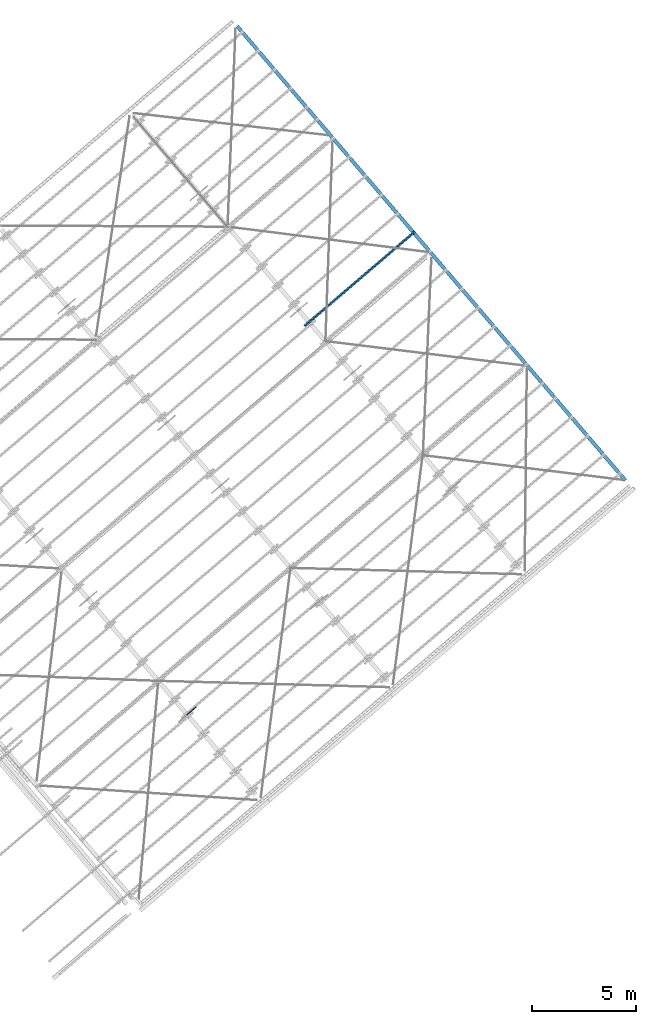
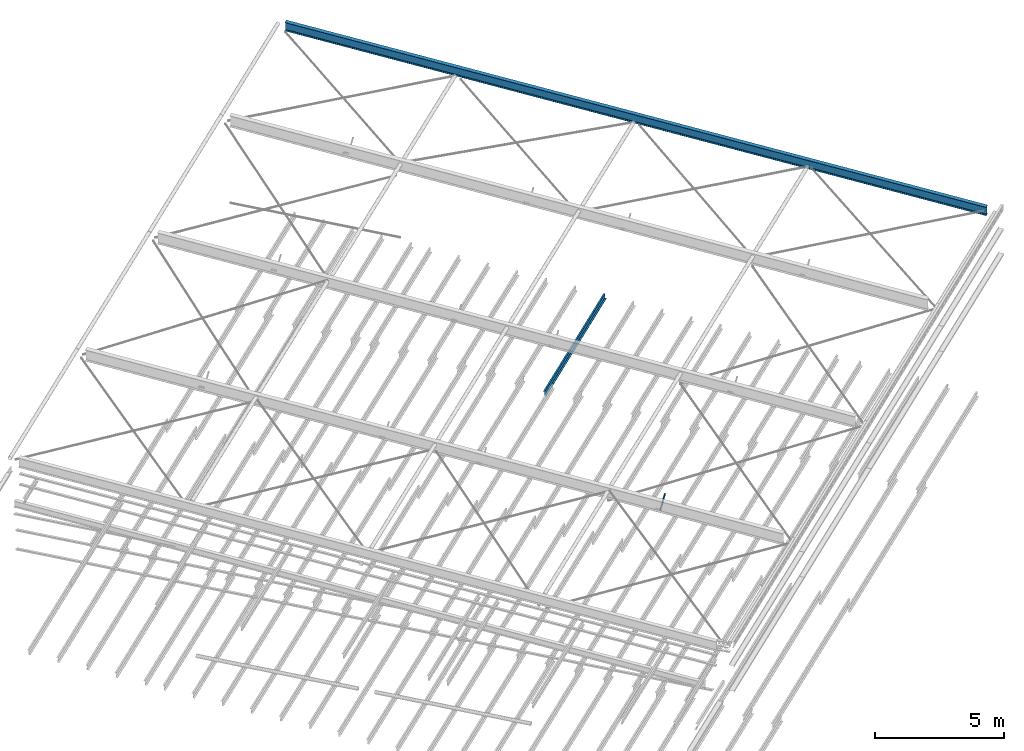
# One storey, part 21 of 25: 2 beams, 1 member, 1 element without a shape of its own.
"""IFC2X3 building model written with IfcOpenShell, lengths in millimetres."""

from ifc_helpers import new_model, entity, si_unit, converted_unit, derived_unit, direction, frame, frame_2d, origin, origin_2d, place, context, subcontext, project, spatial, polyline, circle_curve, parameter, trimmed, segment, composite_curve, i_section, outline, extrude, clip, halfspace, material, type_object, element, aggregate, save


model = new_model("IFC2X3")

# Units and contexts
model_context = context("Model", 3, precision=0.01, world=origin(), true_north=direction((6.123031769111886e-17, 1.0)))
body_context = subcontext(model_context, "Body", "Model", "MODEL_VIEW")
ifc_project = project(units=[si_unit("LENGTHUNIT", "METRE", prefix="MILLI"), si_unit("AREAUNIT", "SQUARE_METRE"), si_unit("VOLUMEUNIT", "CUBIC_METRE"), converted_unit("PLANEANGLEUNIT", "DEGREE", entity("IfcRatioMeasure", 0.017453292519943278), si_unit("PLANEANGLEUNIT", "RADIAN"), dimensions=[0, 0, 0, 0, 0, 0, 0]), si_unit("MASSUNIT", "GRAM", prefix="KILO"), derived_unit("MASSDENSITYUNIT", [(si_unit("MASSUNIT", "GRAM", prefix="KILO"), 1), (si_unit("LENGTHUNIT", "METRE"), -3)]), derived_unit("MOMENTOFINERTIAUNIT", [(si_unit("LENGTHUNIT", "METRE"), 4)]), si_unit("TIMEUNIT", "SECOND"), si_unit("FREQUENCYUNIT", "HERTZ"), si_unit("THERMODYNAMICTEMPERATUREUNIT", "DEGREE_CELSIUS"), derived_unit("THERMALTRANSMITTANCEUNIT", [(si_unit("MASSUNIT", "GRAM", prefix="KILO"), 1), (si_unit("THERMODYNAMICTEMPERATUREUNIT", "KELVIN"), -1), (si_unit("TIMEUNIT", "SECOND"), -3)]), derived_unit("VOLUMETRICFLOWRATEUNIT", [(si_unit("LENGTHUNIT", "METRE"), 3), (si_unit("TIMEUNIT", "SECOND"), -1)]), derived_unit("MASSFLOWRATEUNIT", [(si_unit("MASSUNIT", "GRAM", prefix="KILO"), 1), (si_unit("TIMEUNIT", "SECOND"), -1)]), derived_unit("ROTATIONALFREQUENCYUNIT", [(si_unit("TIMEUNIT", "SECOND"), -1)]), si_unit("ELECTRICCURRENTUNIT", "AMPERE"), si_unit("ELECTRICVOLTAGEUNIT", "VOLT"), si_unit("POWERUNIT", "WATT"), si_unit("FORCEUNIT", "NEWTON", prefix="KILO"), si_unit("ILLUMINANCEUNIT", "LUX"), si_unit("LUMINOUSFLUXUNIT", "LUMEN"), si_unit("LUMINOUSINTENSITYUNIT", "CANDELA"), derived_unit("USERDEFINED", [(si_unit("MASSUNIT", "GRAM", prefix="KILO"), -1), (si_unit("LENGTHUNIT", "METRE"), -2), (si_unit("TIMEUNIT", "SECOND"), 3), (si_unit("LUMINOUSFLUXUNIT", "LUMEN"), 1)]), derived_unit("SOUNDPOWERUNIT", [(si_unit("MASSUNIT", "GRAM", prefix="KILO"), 1), (si_unit("LENGTHUNIT", "METRE"), 2), (si_unit("TIMEUNIT", "SECOND"), -3)]), derived_unit("LINEARVELOCITYUNIT", [(si_unit("LENGTHUNIT", "METRE"), 1), (si_unit("TIMEUNIT", "SECOND"), -1)]), si_unit("PRESSUREUNIT", "PASCAL"), derived_unit("USERDEFINED", [(si_unit("LENGTHUNIT", "METRE"), -2), (si_unit("MASSUNIT", "GRAM", prefix="KILO"), 1), (si_unit("TIMEUNIT", "SECOND"), -2)]), derived_unit("LINEARFORCEUNIT", [(si_unit("MASSUNIT", "GRAM", prefix="KILO"), 1), (si_unit("LENGTHUNIT", "METRE"), 1), (si_unit("TIMEUNIT", "SECOND"), -2), (si_unit("LENGTHUNIT", "METRE"), -1)]), derived_unit("PLANARFORCEUNIT", [(si_unit("MASSUNIT", "GRAM", prefix="KILO"), 1), (si_unit("LENGTHUNIT", "METRE"), 1), (si_unit("TIMEUNIT", "SECOND"), -2), (si_unit("LENGTHUNIT", "METRE"), -2)])], contexts=[model_context])

# Site, building, storey
site_placement = place(None, frame((962.4174930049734, -6014.433753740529, 0.0), z_axis=(0.0, 0.0, 1.0), x_axis=(0.7601792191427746, 0.649713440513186, 0.0)))
site = spatial("IfcSite", under=ifc_project, at=site_placement, Name="Default", CompositionType="ELEMENT")
building_placement = place(site_placement, origin())
building = spatial("IfcBuilding", under=site, at=building_placement, CompositionType="ELEMENT")
storey_placement = place(building_placement, frame((0.0, 0.0, 9200.0)))
storey = spatial("IfcBuildingStorey", under=building, at=storey_placement, Name="TOP OF CEILING", CompositionType="ELEMENT", Elevation=9200.000000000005)

# Beam
beam_type_1 = type_object("IfcBeamType", Name="ADSK_AU_EA-Equal Angles (AS 3679_1):50x50x5EA", PredefinedType="NOTDEFINED")
beam_1_placement = place(storey_placement, frame((162866.05964134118, -20517.92808212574, 2502.2460975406), z_axis=(-0.6018150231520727, 0.0, 0.7986355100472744), x_axis=(-0.7986355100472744, 0.0, -0.6018150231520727)))
element("IfcBeam", 1, at=beam_1_placement, inside=storey, type_object=beam_type_1, Name="ADSK_AU_EA-Equal Angles (AS 3679_1):50x50x5EA", ObjectType="ADSK_AU_EA-Equal Angles (AS 3679_1):50x50x5EA", context=body_context, shape_type="SweptSolid", body=[
    clip(extrude(outline(composite_curve([segment(polyline([(16.88888888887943, -31.11111111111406), (18.888888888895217, -31.111111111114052)]), True, "CONTINUOUS"), segment(polyline([(18.888888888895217, -31.111111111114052), (18.888888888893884, 18.888888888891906)]), True, "CONTINUOUS"), segment(polyline([(18.88888888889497, 18.888888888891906), (-31.111111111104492, 18.88888888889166)]), True, "CONTINUOUS"), segment(polyline([(-31.11111111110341, 18.88888888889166), (-31.111111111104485, 16.888888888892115)]), True, "CONTINUOUS"), segment(trimmed(circle_curve(frame_2d((-28.11111111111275, 16.8888888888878), x_axis=(-1.0, 0.0)), 2.9999999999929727), [parameter(0.0)], [parameter(90.00000000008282)], True, "PARAMETER"), True, "CONTINUOUS"), segment(polyline([(-28.11111111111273, 13.88888888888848), (7.888888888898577, 13.888888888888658)]), True, "CONTINUOUS"), segment(trimmed(circle_curve(frame_2d((7.888888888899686, 7.88888888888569), x_axis=(0.0, 1.0)), 6.00000000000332), [parameter(270.0000000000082)], [parameter(0.0)], True, "PARAMETER"), False, "CONTINUOUS"), segment(polyline([(13.88888888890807, 7.888888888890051), (13.88888888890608, -28.11111111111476)]), True, "CONTINUOUS"), segment(trimmed(circle_curve(frame_2d((16.888888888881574, -28.111111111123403), x_axis=(-1.0, 0.0)), 2.9999999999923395), [parameter(0.0)], [parameter(90.00000000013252)], True, "PARAMETER"), True, "CONTINUOUS")], self_intersect=False)), frame((0.0, -4.9888888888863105, -31.111111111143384), z_axis=(1.0, 0.0, 0.0), x_axis=(0.0, 0.0, -1.0)), (0.0, 0.0, 1.0), 697.6777025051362), halfspace(frame((697.67770250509, 0.0, -50.0), z_axis=(0.7986355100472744, 0.0, 0.6018150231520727), x_axis=(0.0, -1.0, 0.0)), False)),
])

# Assembly, beam
assembly_placement = place(storey_placement, origin())
assembly = element("IfcElementAssembly", 2, at=assembly_placement, inside=storey, Name="Structural Beam System:Structural Beam System 1", ObjectType="Structural Beam System:Structural Beam System 1", AssemblyPlace="NOTDEFINED", PredefinedType="BEAM_GRID")
ifc_material_1 = material(Name="Metal - Light Gauge")
beam_type_2 = type_object("IfcBeamType", Name="ADSK_AU_Light Gauge-Zeds:Z20019", PredefinedType="NOTDEFINED")
beam_2_placement = place(building_placement, frame((185873.56020470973, -9913.849118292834, 3496.7645262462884), z_axis=(0.0, 0.0, 1.0), x_axis=(-1.0, 0.0, 0.0)))
beam_2 = element("IfcBeam", 3, at=beam_2_placement, type_object=beam_type_2, material=ifc_material_1, Name="ADSK_AU_Light Gauge-Zeds:Z20019", ObjectType="ADSK_AU_Light Gauge-Zeds:Z20019", context=body_context, shape_type="SweptSolid", body=[
    extrude(outline(composite_curve([segment(polyline([(99.65000000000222, 1.2799999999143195), (99.6499999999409, -70.42000000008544)]), True, "CONTINUOUS"), segment(trimmed(circle_curve(frame_2d((97.649999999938, -70.42000000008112), x_axis=(0.0, -1.0)), 2.0000000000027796), [parameter(0.0)], [parameter(89.99999999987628)], True, "PARAMETER"), False, "CONTINUOUS"), segment(polyline([(97.64999999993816, -72.42000000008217), (80.04999999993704, -72.42000000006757)]), True, "CONTINUOUS"), segment(polyline([(80.04999999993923, -72.42000000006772), (80.0499999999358, -74.32000000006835)]), True, "CONTINUOUS"), segment(polyline([(80.0499999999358, -74.32000000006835), (97.6499999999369, -74.32000000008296)]), True, "CONTINUOUS"), segment(trimmed(circle_curve(frame_2d((97.64999999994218, -70.42000000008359), x_axis=(1.0, 0.0)), 3.8999999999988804), [parameter(269.99999999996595)], [parameter(0.0)], True, "PARAMETER"), True, "CONTINUOUS"), segment(polyline([(101.54999999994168, -70.4200000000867), (101.550000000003, 1.279999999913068)]), True, "CONTINUOUS"), segment(trimmed(circle_curve(frame_2d((97.65000000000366, 1.2799999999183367), x_axis=(0.0, 1.0)), 3.899999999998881), [parameter(269.99999999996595)], [parameter(0.0)], True, "PARAMETER"), True, "CONTINUOUS"), segment(polyline([(97.65000000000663, 5.1799999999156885), (-97.54999999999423, 5.180000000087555)]), True, "CONTINUOUS"), segment(trimmed(circle_curve(frame_2d((-97.5499999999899, 7.180000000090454), x_axis=(-1.0, 0.0)), 2.0000000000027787), [parameter(0.0)], [parameter(89.99999999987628)], True, "PARAMETER"), False, "CONTINUOUS"), segment(polyline([(-99.5499999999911, 7.1800000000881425), (-99.54999999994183, 64.78000000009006)]), True, "CONTINUOUS"), segment(trimmed(circle_curve(frame_2d((-97.5499999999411, 64.78000000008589), x_axis=(0.0, 1.0)), 2.000000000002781), [parameter(0.0)], [parameter(89.99999999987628)], True, "PARAMETER"), False, "CONTINUOUS"), segment(polyline([(-97.54999999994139, 66.78000000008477), (-80.44999999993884, 66.78000000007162)]), True, "CONTINUOUS"), segment(polyline([(-80.44999999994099, 66.78000000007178), (-80.44999999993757, 68.68000000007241)]), True, "CONTINUOUS"), segment(polyline([(-80.4499999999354, 68.68000000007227), (-97.549999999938, 68.6800000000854)]), True, "CONTINUOUS"), segment(trimmed(circle_curve(frame_2d((-97.54999999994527, 64.78000000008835), x_axis=(-1.0, 0.0)), 3.8999999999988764), [parameter(269.99999999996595)], [parameter(0.0)], True, "PARAMETER"), True, "CONTINUOUS"), segment(polyline([(-101.44999999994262, 64.7800000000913), (-101.44999999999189, 7.180000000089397)]), True, "CONTINUOUS"), segment(trimmed(circle_curve(frame_2d((-97.54999999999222, 7.180000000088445), x_axis=(0.0, -1.0)), 3.8999999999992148), [parameter(269.9999999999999)], [parameter(0.0)], True, "PARAMETER"), True, "CONTINUOUS"), segment(polyline([(-97.54999999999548, 3.2800000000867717), (97.65000000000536, 3.2799999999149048)]), True, "CONTINUOUS"), segment(trimmed(circle_curve(frame_2d((97.65000000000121, 1.2799999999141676), x_axis=(1.0, 0.0)), 2.000000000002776), [parameter(0.0)], [parameter(89.99999999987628)], True, "PARAMETER"), False, "CONTINUOUS")], self_intersect=False)), frame((0.0, -1.9094124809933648, -101.56421143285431), z_axis=(-1.0, 0.0, 0.0), x_axis=(0.0, -0.06975647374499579, -0.9975640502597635)), (0.0, 0.0, -1.0), 7035.00000000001),
])
aggregate(assembly, [beam_2])

# Member
ifc_material_2 = material(Name="Metal - Steel - 300 MPa")
member_type = type_object("IfcMemberType", Name="ADSK_AU_UB-Universal Beams (AS 3679_1):410UB53.7", PredefinedType="MEMBER", material=ifc_material_2)
member_placement = place(storey_placement, frame((185784.26020471, -26711.550901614, 1899.87485887), z_axis=(0.0, -0.9975640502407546, -0.0697564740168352), x_axis=(1.0, 0.0, 0.0)))
element("IfcMember", 4, at=member_placement, inside=storey, type_object=member_type, material=ifc_material_2, Name="ADSK_AU_UB-Universal Beams (AS 3679_1):410UB53.7", ObjectType="410UB53.7", context=model_context, shape_type="Clipping", body=[
    clip(clip(extrude(i_section(OverallWidth=178.0, OverallDepth=402.6, WebThickness=7.6, FlangeThickness=10.9, FilletRadius=11.4, at=origin_2d()), origin(), (0.0, 0.0, -1.0), 30728.851496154), halfspace(frame((-185784.26020471, -13159.728117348, -29069.657815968), z_axis=(0.0, 0.069756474, 0.99756405), x_axis=(1.0, 0.0, 0.0)), True)), halfspace(frame((-185784.26020471, -11146.214617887, -275.073256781), z_axis=(0.0, -0.069756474, -0.99756405), x_axis=(-1.0, 0.0, 0.0)), True)),
])

save(model, "model.ifc")
